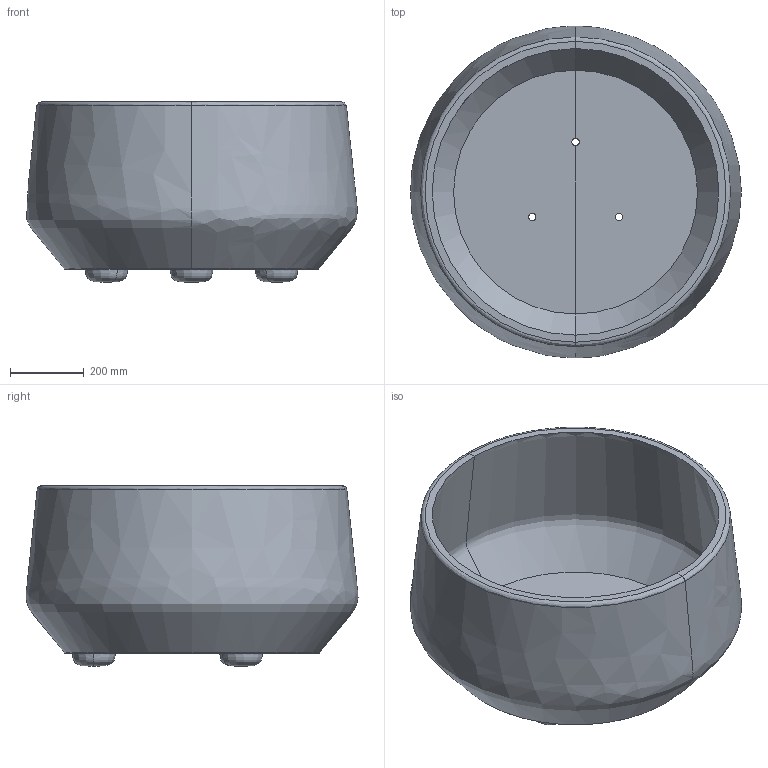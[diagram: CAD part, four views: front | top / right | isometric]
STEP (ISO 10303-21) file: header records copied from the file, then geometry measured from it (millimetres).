
FILE_DESCRIPTION(/* description */ (''),/* implementation_level */ '2;1');
FILE_NAME(/* name */ '90',/* time_stamp */ '2026-04-30T09:09:00+02:00',/* author */ (''),/* organization */ (''),/* preprocessor_version */ 'ST-DEVELOPER v19.2',/* originating_system */ 'Rhino 8.30',/* authorisation */ '');
FILE_SCHEMA (('CONFIG_CONTROL_DESIGN'));
Length unit declared in the file: millimetre
Products named in the file (1): Document
Bounding box: 896.71 x 899.87 x 488.71 mm (x, y, z)
Volume: 45442567.8 mm3; surface area: 3238705.8 mm2
Topology: 1 solids, 1 shells, 25 faces, 63 edges, 36 vertices
Faces by surface type: bspline 14, cylinder 6, plane 5
Entity records: 1317 total; most frequent: CARTESIAN_POINT 707, ORIENTED_EDGE 114, DIRECTION 87, EDGE_CURVE 57, AXIS2_PLACEMENT_3D 49, TRIMMED_CURVE 36, CIRCLE 36, VERTEX_POINT 36
